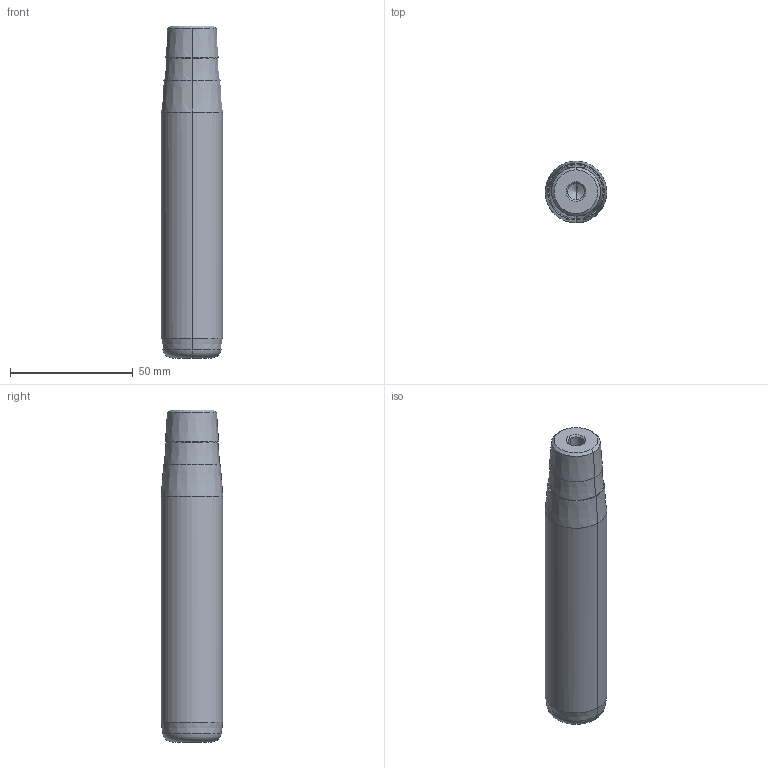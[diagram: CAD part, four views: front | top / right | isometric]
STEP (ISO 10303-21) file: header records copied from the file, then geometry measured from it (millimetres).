
FILE_DESCRIPTION(('CATIA V5 STEP Exchange'),'2;1');
FILE_NAME('C:\Users\Utente\Desktop\IO LAVORO\3D X SITO CF\X SITO\722\722-25x112x135.stp','2021-01-09T08:08:08+00:00',('none'),('none'),'CATIA Version 5 Release 20 GA (IN-10)','CATIA V5 STEP AP203','none');
FILE_SCHEMA(('CONFIG_CONTROL_DESIGN'));
Length unit declared in the file: millimetre
Products named in the file (1): 722-25x112x135
Bounding box: 25 x 25 x 135 mm (x, y, z)
Volume: 60327.6 mm3; surface area: 11989.4 mm2
Topology: 1 solids, 1 shells, 32 faces, 98 edges, 66 vertices
Faces by surface type: cone 22, cylinder 6, plane 2, torus 2
Entity records: 1166 total; most frequent: CARTESIAN_POINT 279, ORIENTED_EDGE 188, DIRECTION 148, EDGE_CURVE 94, AXIS2_PLACEMENT_3D 89, VERTEX_POINT 66, CIRCLE 56, EDGE_LOOP 34
